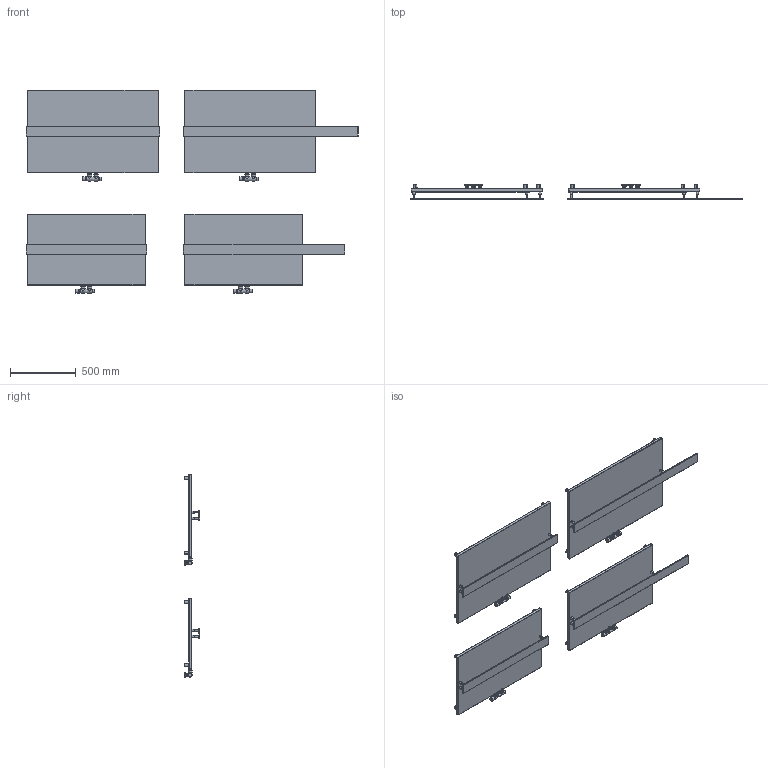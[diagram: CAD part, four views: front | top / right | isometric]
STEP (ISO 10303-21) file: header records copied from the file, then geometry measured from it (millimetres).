
FILE_DESCRIPTION ((), '1');
FILE_NAME ('/Users/melo21casa/Desktop/Disegni 3D x Diliberto/Geometrica 3d/Geo-R 4mod 3D.stp', '2025-08-29T16:12:13', ('Unknown'), ('Unknown'), 'HarmonyWare STEP v2.1.7', 'Vectorworks', '');
FILE_SCHEMA (('CONFIG_CONTROL_DESIGN'));
Bounding box: 2530 x 119.64 x 1549.69 mm (x, y, z)
Volume: 55285148.6 mm3; surface area: 5879723.5 mm2
Topology: 116 solids, 1860 shells, 3268 faces, 11612 edges, 10288 vertices
Faces by surface type: bspline 3268
Entity records: 194559 total; most frequent: CARTESIAN_POINT 134291, ORIENTED_EDGE 14064, EDGE_CURVE 10772, B_SPLINE_CURVE_WITH_KNOTS 9874, VERTEX_POINT 9520, EDGE_LOOP 3476, FACE_OUTER_BOUND 3268, ADVANCED_FACE 3268
